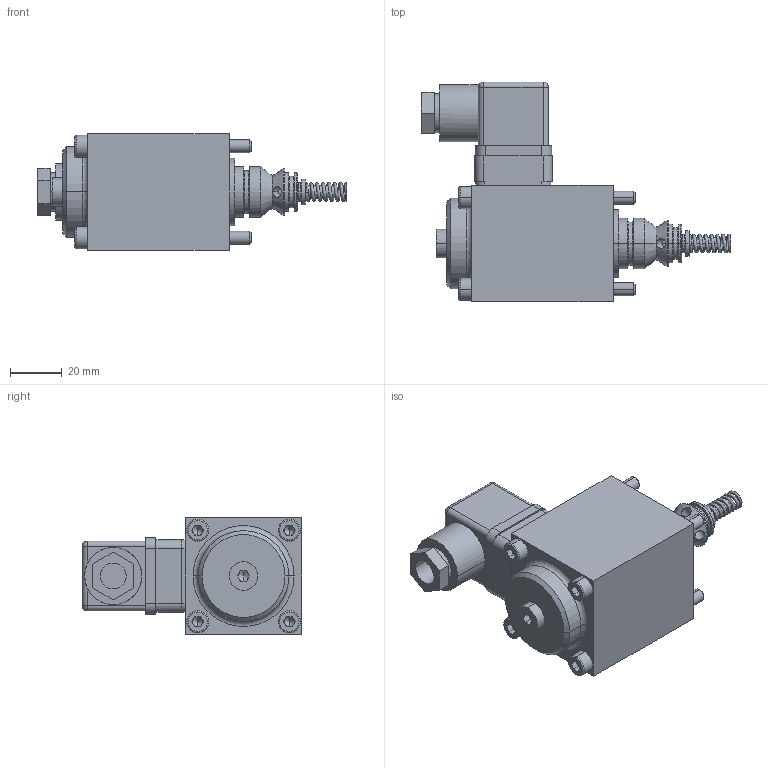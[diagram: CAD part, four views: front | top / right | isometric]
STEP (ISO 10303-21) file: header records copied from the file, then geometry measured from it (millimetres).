
FILE_DESCRIPTION (( 'STEP AP214' ), '1' );
FILE_NAME ('M2206.STEP', '2021-09-01T08:26:55', ( '' ), ( '' ), 'SwSTEP 2.0', 'SolidWorks 2020', '' );
FILE_SCHEMA (( 'AUTOMOTIVE_DESIGN' ));
Length unit declared in the file: millimetre
Products named in the file (1): M2206
Bounding box: 119.3 x 84.8 x 45 mm (x, y, z)
Volume: 164288.5 mm3; surface area: 26210.6 mm2
Topology: 4 solids, 4 shells, 277 faces, 623 edges, 372 vertices
Faces by surface type: plane 120, cylinder 91, cone 34, torus 22, bspline 10
Entity records: 15291 total; most frequent: CARTESIAN_POINT 6139, DIRECTION 1356, ORIENTED_EDGE 1218, EDGE_CURVE 609, AXIS2_PLACEMENT_3D 522, VERTEX_POINT 372, VECTOR 312, LINE 312
